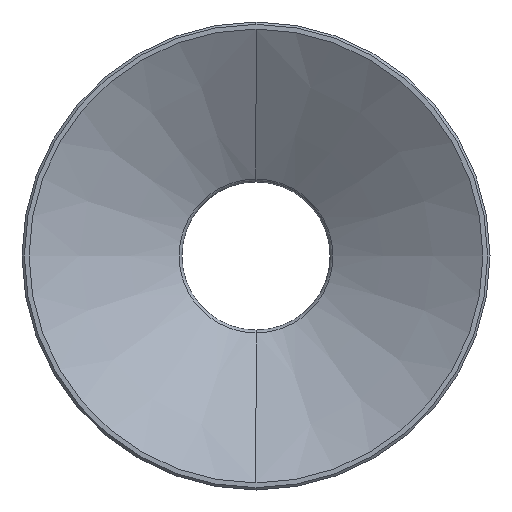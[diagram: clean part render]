
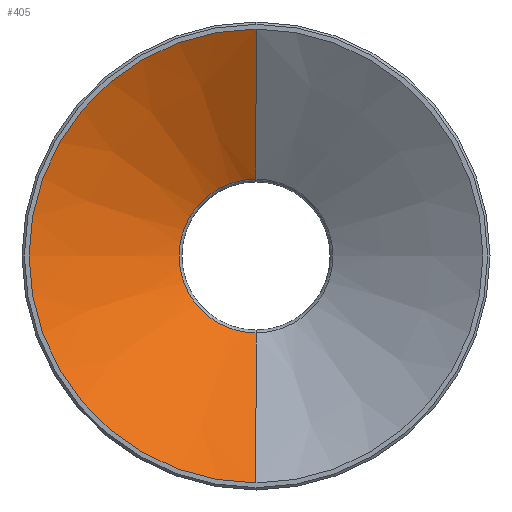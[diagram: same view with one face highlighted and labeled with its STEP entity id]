
A CAD part, front view. The second image highlights one B-rep face of the part: STEP entity #405.
In plain terms, the highlighted conical face has half-angle 59.113 degrees and reference radius 19.15 mm.
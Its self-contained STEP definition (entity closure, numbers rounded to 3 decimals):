
#4 = CARTESIAN_POINT ( 'NONE',  ( 0., -27.5, 0. ) ) ;
#14 = DIRECTION ( 'NONE',  ( 0., -0.513, 0.858 ) ) ;
#35 = EDGE_CURVE ( 'NONE', #69, #329, #157, .T. ) ;
#45 = DIRECTION ( 'NONE',  ( 0., -0.513, -0.858 ) ) ;
#66 = CARTESIAN_POINT ( 'NONE',  ( 0., -27.5, 19.15 ) ) ;
#69 = VERTEX_POINT ( 'NONE', #382 ) ;
#70 = CARTESIAN_POINT ( 'NONE',  ( 0., -19.929, 0. ) ) ;
#83 = CARTESIAN_POINT ( 'NONE',  ( 0., -27.5, -19.15 ) ) ;
#91 = LINE ( 'NONE', #446, #307 ) ;
#115 = AXIS2_PLACEMENT_3D ( 'NONE', #70, #542, #200 ) ;
#157 = LINE ( 'NONE', #226, #249 ) ;
#188 = DIRECTION ( 'NONE',  ( 0., 1., 0. ) ) ;
#194 = EDGE_CURVE ( 'NONE', #481, #229, #91, .T. ) ;
#195 = CIRCLE ( 'NONE', #115, 6.493 ) ;
#200 = DIRECTION ( 'NONE',  ( 0., 0., 1. ) ) ;
#203 = ORIENTED_EDGE ( 'NONE', *, *, #530, .F. ) ;
#215 = ORIENTED_EDGE ( 'NONE', *, *, #35, .F. ) ;
#217 = CARTESIAN_POINT ( 'NONE',  ( 0., -19.929, 6.493 ) ) ;
#226 = CARTESIAN_POINT ( 'NONE',  ( 0., -27.5, -19.15 ) ) ;
#229 = VERTEX_POINT ( 'NONE', #66 ) ;
#248 = DIRECTION ( 'NONE',  ( 0., -1., 0. ) ) ;
#249 = VECTOR ( 'NONE', #45, 1000. ) ;
#257 = ORIENTED_EDGE ( 'NONE', *, *, #194, .T. ) ;
#258 = AXIS2_PLACEMENT_3D ( 'NONE', #333, #248, #512 ) ;
#268 = EDGE_CURVE ( 'NONE', #69, #481, #195, .T. ) ;
#307 = VECTOR ( 'NONE', #14, 1000. ) ;
#310 = DIRECTION ( 'NONE',  ( 0., 0., 1. ) ) ;
#318 = ORIENTED_EDGE ( 'NONE', *, *, #268, .T. ) ;
#329 = VERTEX_POINT ( 'NONE', #83 ) ;
#333 = CARTESIAN_POINT ( 'NONE',  ( 0., -27.5, 0. ) ) ;
#348 = AXIS2_PLACEMENT_3D ( 'NONE', #4, #188, #310 ) ;
#369 = EDGE_LOOP ( 'NONE', ( #318, #257, #203, #215 ) ) ;
#382 = CARTESIAN_POINT ( 'NONE',  ( 0., -19.929, -6.493 ) ) ;
#401 = CONICAL_SURFACE ( 'NONE', #258, 19.15, 1.032 ) ;
#405 = ADVANCED_FACE ( 'NONE', ( #547 ), #401, .F. ) ;
#446 = CARTESIAN_POINT ( 'NONE',  ( 0., -27.5, 19.15 ) ) ;
#481 = VERTEX_POINT ( 'NONE', #217 ) ;
#494 = CIRCLE ( 'NONE', #348, 19.15 ) ;
#512 = DIRECTION ( 'NONE',  ( 0., 0., -1. ) ) ;
#530 = EDGE_CURVE ( 'NONE', #329, #229, #494, .T. ) ;
#542 = DIRECTION ( 'NONE',  ( 0., 1., 0. ) ) ;
#547 = FACE_OUTER_BOUND ( 'NONE', #369, .T. ) ;
